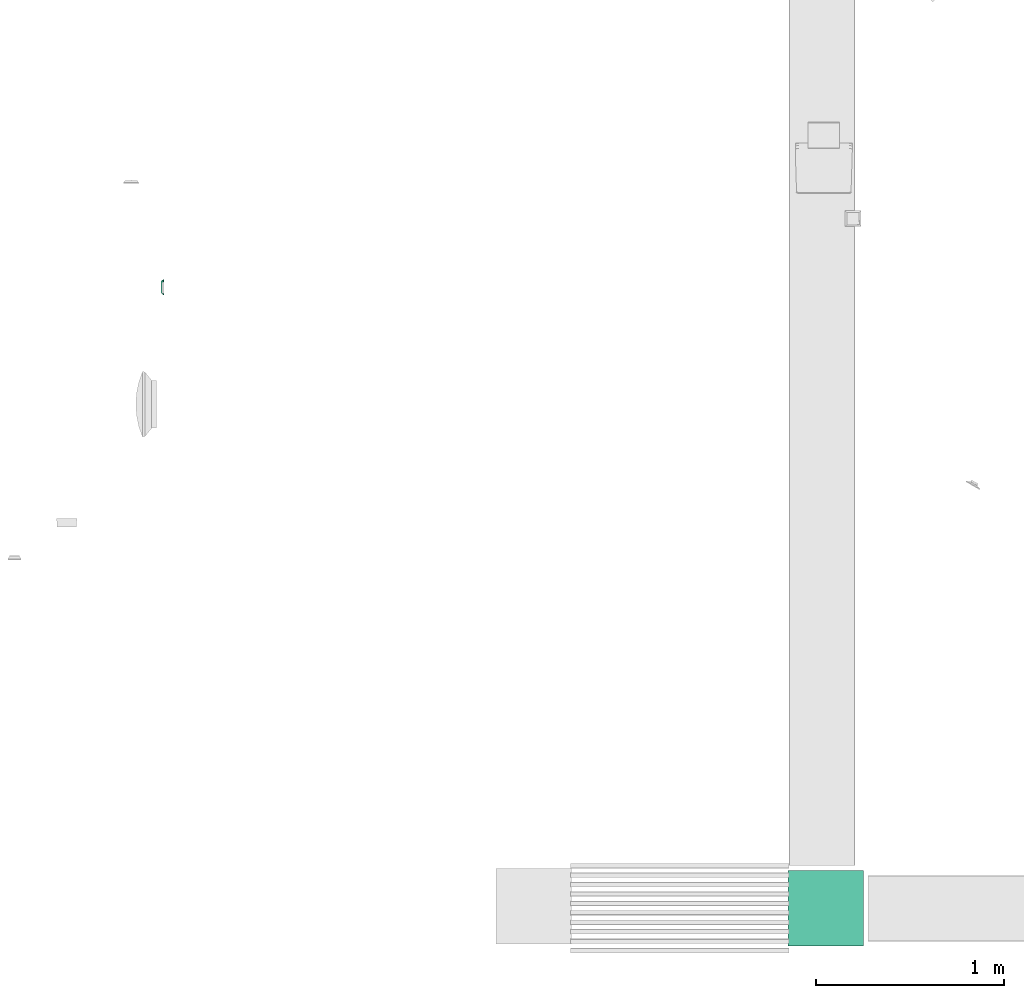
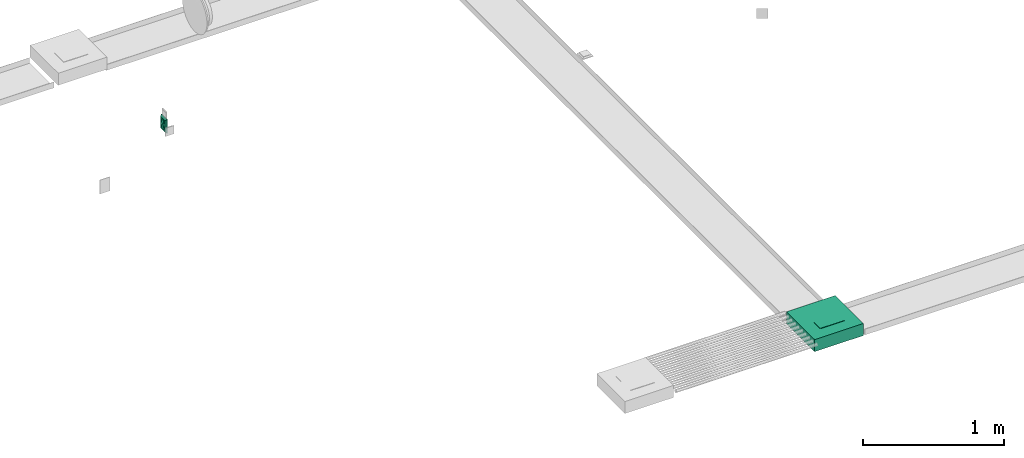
# One storey, part 3 of 24: 2 flow terminals.
"""IFC2X3 building model written with IfcOpenShell, lengths in millimetres."""

from ifc_helpers import new_model, entity, si_unit, converted_unit, derived_unit, direction, frame, origin_with_axes, place, context, subcontext, project, spatial, open_shell, surface_model, source, transform, mapped, type_object, element, save


model = new_model("IFC2X3")

# Units and contexts
model_context = context("Model", 3, precision=0.01, world=frame((0.0, 4.29681676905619e-09, 0.0)), true_north=direction((4.01073788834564e-13, 1.0)))
plan_context = context("Plan", 3, precision=0.01, world=frame((0.0, 4.29681676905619e-09, 0.0)), true_north=direction((4.01073788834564e-13, 1.0)))
body_context = subcontext(model_context, "Body", "Model", "MODEL_VIEW")
ifc_project = project(units=[converted_unit("PLANEANGLEUNIT", "DEGREE", entity("IfcPositiveLengthMeasure", 0.0174532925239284), si_unit("PLANEANGLEUNIT", "RADIAN"), dimensions=[0, 0, 0, 0, 0, 0, 0]), si_unit("AREAUNIT", "SQUARE_METRE"), si_unit("LENGTHUNIT", "METRE", prefix="MILLI"), si_unit("MASSUNIT", "GRAM", prefix="KILO"), si_unit("POWERUNIT", "WATT"), si_unit("PRESSUREUNIT", "PASCAL"), si_unit("FORCEUNIT", "NEWTON", prefix="KILO"), si_unit("ELECTRICVOLTAGEUNIT", "VOLT"), si_unit("ELECTRICCURRENTUNIT", "AMPERE"), si_unit("THERMODYNAMICTEMPERATUREUNIT", "DEGREE_CELSIUS"), si_unit("TIMEUNIT", "SECOND"), si_unit("VOLUMEUNIT", "CUBIC_METRE"), derived_unit("LINEARVELOCITYUNIT", [(si_unit("LENGTHUNIT", "METRE"), 1), (si_unit("TIMEUNIT", "SECOND"), -1)]), derived_unit("VOLUMETRICFLOWRATEUNIT", [(si_unit("VOLUMEUNIT", "CUBIC_METRE"), 1), (si_unit("TIMEUNIT", "SECOND"), -1)]), derived_unit("THERMALTRANSMITTANCEUNIT", [(si_unit("POWERUNIT", "WATT"), 1), (si_unit("THERMODYNAMICTEMPERATUREUNIT", "KELVIN"), -1), (si_unit("AREAUNIT", "SQUARE_METRE"), -1)]), derived_unit("SOUNDPRESSUREUNIT", [(si_unit("PRESSUREUNIT", "PASCAL"), 1)])], contexts=[model_context, plan_context])

# Site, building, storey
site_placement = place(None, frame((0.0, -4.29681676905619e-09, 0.0), z_axis=(0.0, 0.0, 1.0), x_axis=(1.0, 0.0, 0.0)))
site = spatial("IfcSite", under=ifc_project, at=site_placement, Name="ENGM", CompositionType="ELEMENT")
building_placement = place(site_placement, frame((0.0, 4.29681676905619e-09, 0.0), z_axis=(0.0, 0.0, 1.0), x_axis=(1.0, 0.0, 0.0)))
building = spatial("IfcBuilding", under=site, at=building_placement, Name="TH", CompositionType="ELEMENT")
storey_placement = place(building_placement, frame((0.0, 0.0, 210200.0), z_axis=(0.0, 0.0, 1.0), x_axis=(1.0, 0.0, 0.0)))
storey = spatial("IfcBuildingStorey", under=building, at=storey_placement, Name="Nivå F - 0,7 m", CompositionType="ELEMENT", Elevation=210200.0)

# Flow terminals
electric_appliance_type = type_object("IfcElectricApplianceType", Name="OTHER-EE-POWER-BALANCED-DUMMY", PredefinedType="NOTDEFINED")
shared_shape_1 = source(origin_with_axes(), body_context, "Body", "SurfaceModel", [
    surface_model("IfcShellBasedSurfaceModel", [(199.96, -199.96, -8.96812), (199.96, 200.0, -8.96812), (-200.0, 200.0, -8.96812), (-200.0, -199.96, -8.96812), (-200.0, -199.96, -108.96812), (-200.0, 200.0, -108.96812), (199.96, -199.96, -108.96812), (199.96, 200.0, -108.96812), (99.91278, -102.96181, -1.48406), (99.91278, 100.0, -1.48406), (-100.0, -102.96181, -1.48406), (-100.0, 100.0, -1.48406), (-100.0, -102.96181, -4.48406), (-100.0, 100.0, -4.48406), (99.91278, 100.0, -4.48406), (99.91278, -102.96181, -4.48406), (199.96, -199.96, -4.48406), (199.96, 200.0, -4.48406), (-200.0, 200.0, -4.48406), (-200.0, -199.96, -4.48406), (-200.0, -199.96, -104.48406), (-200.0, 200.0, -104.48406), (199.96, -199.96, -104.48406), (199.96, 200.0, -104.48406)], [open_shell([[[0, 1, 2]], [[2, 3, 0]], [[4, 5, 6]], [[7, 6, 5]], [[2, 1, 7]], [[7, 5, 2]], [[3, 2, 5]], [[5, 4, 3]], [[0, 3, 4]], [[4, 6, 0]], [[1, 0, 6]], [[6, 7, 1]], [[8, 9, 10]], [[11, 10, 9]], [[12, 13, 14]], [[14, 15, 12]], [[11, 9, 14]], [[14, 13, 11]], [[10, 11, 13]], [[13, 12, 10]], [[8, 10, 12]], [[12, 15, 8]], [[9, 8, 15]], [[15, 14, 9]], [[16, 17, 18]], [[18, 19, 16]], [[20, 21, 22]], [[23, 22, 21]], [[18, 17, 23]], [[23, 21, 18]], [[19, 18, 21]], [[21, 20, 19]], [[16, 19, 20]], [[20, 22, 16]], [[17, 16, 22]], [[22, 23, 17]]])]),
])
flow_terminal_1_placement = place(storey_placement, frame((899510.37959, 476620.08655, 1.5), z_axis=(0.0, 0.0, 1.0), x_axis=(1.0, 0.0, 0.0)))
element("IfcFlowTerminal", 1, at=flow_terminal_1_placement, inside=storey, type_object=electric_appliance_type, Name="OTHER-EE-POWER-BALANCED-DUMMY", context=body_context, shape_type="MappedRepresentation", body=[
    mapped(shared_shape_1, transform((0.0, 0.0, 0.0), scale=1.0)),
])
outlet_type = type_object("IfcOutletType", Name="Jordet-topolet-2-veis-m_boks", PredefinedType="POWEROUTLET")
shared_shape_2 = source(origin_with_axes(), body_context, "Body", "SurfaceModel", [
    surface_model("IfcShellBasedSurfaceModel", [(-0.5, 17.924, -6.7222), (-0.5, 13.06676, -7.5222), (-0.5, 13.06676, -6.7222), (-0.5, 18.42991, -6.09229), (-0.5, 17.73274, -6.544), (-0.5, 18.9533, -6.99882), (-0.5, 19.0222, -7.5222), (-0.5, 18.75128, -6.5111), (-0.5, 17.50795, -6.41055), (-0.5, 18.0111, -5.77092), (-0.5, 5.0, -6.3), (-0.5, 17.0, -5.5), (-0.5, 17.0, -6.3), (-0.5, 17.25992, -6.32796), (-0.5, 17.52338, -5.56891), (-0.5, 5.0, -5.5), (-0.5, 17.0, -44.5), (-0.5, 5.0, -44.5), (-0.5, 5.0, -43.7), (-0.5, 17.0, -43.7), (-0.5, 17.25471, -43.67288), (-0.5, 17.49801, -43.59276), (-0.5, 18.00498, -44.23072), (-0.5, 17.52021, -44.43151), (-0.5, 17.71899, -43.46321), (-0.5, 18.42125, -43.9113), (-0.5, 17.90774, -43.29004), (-0.5, 13.03378, -43.29004), (-0.5, 13.03378, -42.49005), (-0.5, 18.74067, -43.49502), (-0.5, 18.94147, -43.01026), (-0.5, 19.00995, -42.49005), (0.5, 17.0, -5.5), (0.5, 5.0, -5.5), (0.5, 5.0, -6.3), (0.5, 17.0, -6.3), (0.5, 17.25992, -6.32796), (0.5, 17.50795, -6.41055), (0.5, 18.0111, -5.77092), (0.5, 17.52338, -5.56891), (0.5, 17.73274, -6.544), (0.5, 18.42991, -6.09229), (0.5, 17.924, -6.7222), (0.5, 13.06676, -6.7222), (0.5, 13.06676, -7.5222), (0.5, 18.75128, -6.5111), (0.5, 18.9533, -6.99882), (0.5, 19.0222, -7.5222), (0.5, 17.90774, -43.29004), (0.5, 13.03378, -42.49005), (0.5, 13.03378, -43.29004), (0.5, 18.42125, -43.9113), (0.5, 17.71899, -43.46321), (0.5, 18.94147, -43.01026), (0.5, 19.00995, -42.49005), (0.5, 18.74067, -43.49502), (0.5, 17.49801, -43.59276), (0.5, 18.00498, -44.23072), (0.5, 5.0, -43.7), (0.5, 17.0, -44.5), (0.5, 17.0, -43.7), (0.5, 17.25471, -43.67288), (0.5, 17.52021, -44.43151), (0.5, 5.0, -44.5), (-0.5, 17.90774, 6.70995), (-0.5, 18.74067, 6.50498), (-0.5, 18.42125, 6.0887), (-0.5, 17.71899, 6.53679), (-0.5, 18.00498, 5.76928), (-0.5, 17.49801, 6.40724), (-0.5, 19.00995, 7.50995), (-0.5, 18.94147, 6.98974), (-0.5, 13.03378, 7.50995), (-0.5, 17.52021, 5.56849), (-0.5, 17.0, 5.5), (-0.5, 17.0, 6.3), (-0.5, 17.25471, 6.32711), (-0.5, 5.0, 5.5), (-0.5, 5.0, 6.3), (-0.5, 13.03378, 6.70995), (0.5, 5.0, 6.3), (0.5, 5.0, 5.5), (0.5, 17.0, 6.3), (0.5, 17.0, 5.5), (0.5, 17.25471, 6.32711), (0.5, 17.90774, 6.70995), (0.5, 13.03378, 7.50995), (0.5, 13.03378, 6.70995), (0.5, 17.52021, 5.56849), (0.5, 17.49801, 6.40724), (0.5, 18.00498, 5.76928), (0.5, 17.71899, 6.53679), (0.5, 18.42125, 6.0887), (0.5, 18.74067, 6.50498), (0.5, 18.94147, 6.98974), (0.5, 19.00995, 7.50995), (-0.5, 17.924, 43.2778), (-0.5, 13.06676, 42.4778), (-0.5, 13.06676, 43.2778), (-0.5, 18.42991, 43.90771), (-0.5, 17.73274, 43.456), (-0.5, 18.9533, 43.00118), (-0.5, 19.0222, 42.4778), (-0.5, 18.75128, 43.4889), (-0.5, 17.50795, 43.58945), (-0.5, 18.0111, 44.22908), (-0.5, 17.0, 44.5), (-0.5, 17.0, 43.7), (-0.5, 5.0, 44.5), (-0.5, 17.25992, 43.67204), (-0.5, 17.52338, 44.4311), (-0.5, 5.0, 43.7), (0.5, 5.0, 44.5), (0.5, 17.0, 43.7), (0.5, 17.0, 44.5), (0.5, 5.0, 43.7), (0.5, 17.25992, 43.67204), (0.5, 17.50795, 43.58945), (0.5, 18.0111, 44.22908), (0.5, 17.52338, 44.4311), (0.5, 17.73274, 43.456), (0.5, 18.42991, 43.90771), (0.5, 17.924, 43.2778), (0.5, 13.06676, 43.2778), (0.5, 13.06676, 42.4778), (0.5, 18.75128, 43.4889), (0.5, 18.9533, 43.00118), (0.5, 19.0222, 42.4778), (7.79776, 5.0, -26.27146), (7.45708, 5.0, -25.0), (7.54372, 5.0, -25.65816), (8.72854, 5.0, -27.20224), (8.20188, 5.0, -26.79812), (10.65816, 5.0, -27.45628), (9.34184, 5.0, -27.45628), (8.20188, 5.0, -23.20188), (7.54372, 5.0, -24.34184), (7.79776, 5.0, -23.72854), (9.34184, 5.0, -22.54373), (8.72854, 5.0, -22.79776), (10.0, 5.0, -27.54292), (11.27146, 5.0, -27.20224), (11.79812, 5.0, -26.79812), (12.45628, 5.0, -25.65816), (12.45628, 5.0, -24.34184), (12.20224, 5.0, -26.27146), (12.54292, 5.0, -25.0), (10.0, 5.0, -22.45708), (11.27146, 5.0, -22.79776), (10.65816, 5.0, -22.54373), (11.79812, 5.0, -23.20188), (12.20224, 5.0, -23.72854), (-12.20258, 5.0, -26.27166), (-12.45666, 5.0, -24.34174), (-12.45666, 5.0, -25.65826), (-11.27166, 5.0, -27.20258), (-11.7984, 5.0, -26.7984), (-10.65826, 5.0, -22.54334), (-7.45668, 5.0, -25.0), (-10.65826, 5.0, -27.45666), (-9.34174, 5.0, -27.45666), (-12.20258, 5.0, -23.72834), (-12.54332, 5.0, -25.0), (-11.27166, 5.0, -22.79742), (-11.7984, 5.0, -23.2016), (-10.0, 5.0, -27.54332), (-8.72834, 5.0, -27.20258), (-8.2016, 5.0, -26.7984), (-7.54334, 5.0, -25.65826), (-7.79742, 5.0, -26.27166), (-7.54334, 5.0, -24.34174), (-9.34174, 5.0, -22.54334), (-8.2016, 5.0, -23.2016), (-8.72834, 5.0, -22.79742), (-10.0, 5.0, -22.45668), (-7.79742, 5.0, -23.72834), (12.45628, 5.5, -25.65816), (12.45628, 5.5, -24.34184), (12.54292, 5.5, -25.0), (11.79812, 5.5, -26.79812), (12.20224, 5.5, -26.27146), (11.27146, 5.5, -27.20224), (10.65816, 5.5, -27.45628), (11.79812, 5.5, -23.20188), (12.20224, 5.5, -23.72854), (11.27146, 5.5, -22.79776), (10.0, 5.5, -22.45708), (10.65816, 5.5, -22.54373), (8.72854, 5.5, -27.20224), (9.34184, 5.5, -22.54373), (9.34184, 5.5, -27.45628), (8.20188, 5.5, -23.20188), (7.79776, 5.5, -26.27146), (7.45708, 5.5, -25.0), (8.20188, 5.5, -26.79812), (7.54372, 5.5, -25.65816), (8.72854, 5.5, -22.79776), (7.54372, 5.5, -24.34184), (7.79776, 5.5, -23.72854), (10.0, 5.5, -27.54292), (-8.2016, 5.5, -26.7984), (-7.45668, 5.5, -25.0), (-7.54334, 5.5, -25.65826), (-7.79742, 5.5, -26.27166), (-10.65826, 5.5, -27.45666), (-8.72834, 5.5, -27.20258), (-7.79742, 5.5, -23.72834), (-12.20258, 5.5, -26.27166), (-8.2016, 5.5, -23.2016), (-7.54334, 5.5, -24.34174), (-9.34174, 5.5, -22.54334), (-8.72834, 5.5, -22.79742), (-10.65826, 5.5, -22.54334), (-10.0, 5.5, -22.45668), (-10.0, 5.5, -27.54332), (-9.34174, 5.5, -27.45666), (-11.27166, 5.5, -27.20258), (-11.7984, 5.5, -26.7984), (-12.45666, 5.5, -24.34174), (-12.45666, 5.5, -25.65826), (-11.27166, 5.5, -22.79742), (-12.20258, 5.5, -23.72834), (-11.7984, 5.5, -23.2016), (-12.54332, 5.5, -25.0), (7.85373, 5.0, 23.76085), (7.5217, 5.0, 25.0), (7.60615, 5.0, 24.35857), (8.76085, 5.0, 22.85373), (8.24758, 5.0, 23.24758), (9.35857, 5.0, 22.60615), (10.0, 5.0, 22.5217), (8.24758, 5.0, 26.75242), (7.60615, 5.0, 25.64143), (7.85373, 5.0, 26.23915), (8.76085, 5.0, 27.14627), (10.0, 5.0, 27.4783), (9.35857, 5.0, 27.39385), (11.23915, 5.0, 22.85373), (12.39385, 5.0, 24.35857), (11.75242, 5.0, 23.24758), (11.75242, 5.0, 26.75242), (12.14627, 5.0, 23.76085), (12.4783, 5.0, 25.0), (12.14627, 5.0, 26.23915), (11.23915, 5.0, 27.14627), (10.64143, 5.0, 27.39385), (12.39385, 5.0, 25.64143), (10.64143, 5.0, 22.60615), (-12.12391, 5.0, 23.77376), (-12.45249, 5.0, 25.0), (-12.36892, 5.0, 24.36525), (-11.73417, 5.0, 23.26583), (-8.77376, 5.0, 27.12391), (-10.63475, 5.0, 27.36892), (-11.22624, 5.0, 22.87609), (-10.63475, 5.0, 22.63108), (-7.87609, 5.0, 23.77376), (-12.12391, 5.0, 26.22624), (-12.36892, 5.0, 25.63475), (-11.22624, 5.0, 27.12391), (-11.73417, 5.0, 26.73417), (-10.0, 5.0, 22.54752), (-9.36525, 5.0, 22.63108), (-8.77376, 5.0, 22.87609), (-8.26583, 5.0, 23.26583), (-7.63108, 5.0, 25.63475), (-7.63108, 5.0, 24.36525), (-7.54751, 5.0, 25.0), (-9.36525, 5.0, 27.36892), (-10.0, 5.0, 27.45248), (-8.26583, 5.0, 26.73417), (-7.87609, 5.0, 26.22624), (12.39385, 5.5, 24.35857), (12.14627, 5.5, 26.23915), (12.4783, 5.5, 25.0), (11.75242, 5.5, 23.24758), (12.14627, 5.5, 23.76085), (11.75242, 5.5, 26.75242), (11.23915, 5.5, 22.85373), (8.76085, 5.5, 22.85373), (12.39385, 5.5, 25.64143), (11.23915, 5.5, 27.14627), (10.0, 5.5, 27.4783), (10.64143, 5.5, 27.39385), (10.64143, 5.5, 22.60615), (10.0, 5.5, 22.5217), (9.35857, 5.5, 22.60615), (8.76085, 5.5, 27.14627), (8.24758, 5.5, 26.75242), (7.85373, 5.5, 23.76085), (8.24758, 5.5, 23.24758), (7.5217, 5.5, 25.0), (7.60615, 5.5, 24.35857), (9.35857, 5.5, 27.39385), (7.60615, 5.5, 25.64143), (7.85373, 5.5, 26.23915), (-7.63108, 5.5, 24.36525), (-7.63108, 5.5, 25.63475), (-7.54751, 5.5, 25.0), (-8.26583, 5.5, 23.26583), (-7.87609, 5.5, 23.77376), (-11.22624, 5.5, 22.87609), (-8.77376, 5.5, 22.87609), (-8.26583, 5.5, 26.73417), (-7.87609, 5.5, 26.22624), (-8.77376, 5.5, 27.12391), (-10.0, 5.5, 27.45248), (-9.36525, 5.5, 27.36892), (-10.63475, 5.5, 27.36892), (-10.0, 5.5, 22.54752), (-9.36525, 5.5, 22.63108), (-10.63475, 5.5, 22.63108), (-12.45249, 5.5, 25.0), (-11.73417, 5.5, 23.26583), (-12.12391, 5.5, 23.77376), (-12.36892, 5.5, 24.36525), (-11.22624, 5.5, 27.12391), (-12.12391, 5.5, 26.22624), (-11.73417, 5.5, 26.73417), (-12.36892, 5.5, 25.63475), (41.0, 5.0, -60.0), (19.31852, 5.0, -30.17638), (17.32051, 5.0, -35.0), (20.0, 5.0, -25.0), (14.14214, 5.0, -39.14214), (10.0, 5.0, -42.32051), (5.17638, 5.0, -44.31852), (0.0, 5.0, -45.0), (19.31852, 5.0, -19.82362), (17.32051, 5.0, 15.0), (17.32051, 5.0, -15.0), (10.0, 5.0, -7.67949), (14.14214, 5.0, -10.85786), (10.0, 5.0, 7.67949), (0.0, 5.0, -5.0), (5.17638, 5.0, -5.68148), (5.17638, 5.0, 5.68148), (14.14214, 5.0, 10.85786), (19.31852, 5.0, 19.82362), (-5.17638, 5.0, -44.31852), (-10.0, 5.0, -42.32051), (-41.0, 5.0, -60.0), (-14.14214, 5.0, -39.14214), (-17.32051, 5.0, -35.0), (-19.31852, 5.0, -30.17638), (-10.0, 5.0, -7.67949), (-5.17638, 5.0, -5.68148), (-5.17638, 5.0, 5.68148), (-14.14214, 5.0, -10.85786), (-10.0, 5.0, 7.67949), (-20.0, 5.0, -25.0), (-19.31852, 5.0, -19.82362), (-19.31852, 5.0, 19.82362), (-14.14214, 5.0, 10.85786), (-17.32051, 5.0, -15.0), (-17.32051, 5.0, 15.0), (0.0, 5.0, 5.0), (20.0, 5.0, 25.0), (41.0, 5.0, 60.0), (19.31852, 5.0, 30.17638), (17.32051, 5.0, 35.0), (14.14214, 5.0, 39.14214), (5.17638, 5.0, 44.31852), (10.0, 5.0, 42.32051), (0.0, 5.0, 45.0), (-20.0, 5.0, 25.0), (-41.0, 5.0, 60.0), (-5.17638, 5.0, 44.31852), (-10.0, 5.0, 42.32051), (-19.31852, 5.0, 30.17638), (-17.32051, 5.0, 35.0), (-14.14214, 5.0, 39.14214), (-31.0, 17.0, -50.0), (-19.31852, 17.0, -30.17638), (-17.32051, 17.0, -35.0), (-20.0, 17.0, -25.0), (-14.14214, 17.0, -39.14214), (-10.0, 17.0, -42.32051), (-5.17638, 17.0, -44.31852), (0.0, 17.0, -45.0), (-19.31852, 17.0, -19.82362), (-17.32051, 17.0, -15.0), (-17.32051, 17.0, 15.0), (-10.0, 17.0, -7.67949), (-14.14214, 17.0, -10.85786), (-10.0, 17.0, 7.67949), (0.0, 17.0, -5.0), (-5.17638, 17.0, -5.68148), (-5.17638, 17.0, 5.68148), (-14.14214, 17.0, 10.85786), (-19.31852, 17.0, 19.82362), (5.17638, 17.0, -44.31852), (10.0, 17.0, -42.32051), (31.0, 17.0, -50.0), (14.14214, 17.0, -39.14214), (17.32051, 17.0, -35.0), (19.31852, 17.0, -30.17638), (10.0, 17.0, -7.67949), (5.17638, 17.0, -5.68148), (5.17638, 17.0, 5.68148), (14.14214, 17.0, -10.85786), (10.0, 17.0, 7.67949), (20.0, 17.0, -25.0), (19.31852, 17.0, -19.82362), (17.32051, 17.0, -15.0), (17.32051, 17.0, 15.0), (14.14214, 17.0, 10.85786), (19.31852, 17.0, 19.82362), (0.0, 17.0, 5.0), (-20.0, 17.0, 25.0), (-31.0, 17.0, 50.0), (-19.31852, 17.0, 30.17638), (-17.32051, 17.0, 35.0), (-14.14214, 17.0, 39.14214), (-5.17638, 17.0, 44.31852), (-10.0, 17.0, 42.32051), (0.0, 17.0, 45.0), (20.0, 17.0, 25.0), (31.0, 17.0, 50.0), (5.17638, 17.0, 44.31852), (10.0, 17.0, 42.32051), (19.31852, 17.0, 30.17638), (17.32051, 17.0, 35.0), (14.14214, 17.0, 39.14214), (-41.0, 0.0, 60.0), (-41.0, 0.0, -60.0), (41.0, 0.0, 60.0), (41.0, 0.0, -60.0)], [open_shell([[[0, 1, 2]], [[3, 0, 4]], [[5, 6, 0]], [[0, 7, 5]], [[3, 7, 0]], [[6, 1, 0]], [[4, 8, 9]], [[10, 11, 12]], [[12, 11, 13]], [[8, 13, 14]], [[4, 9, 3]], [[9, 8, 14]], [[13, 11, 14]], [[11, 10, 15]], [[16, 17, 18]], [[18, 19, 16]], [[16, 19, 20]], [[21, 22, 23]], [[20, 21, 23]], [[22, 24, 25]], [[23, 16, 20]], [[26, 25, 24]], [[27, 28, 26]], [[29, 26, 30]], [[29, 25, 26]], [[31, 30, 26]], [[26, 28, 31]], [[24, 22, 21]], [[32, 33, 34]], [[34, 35, 32]], [[32, 35, 36]], [[37, 38, 39]], [[36, 37, 39]], [[38, 40, 41]], [[39, 32, 36]], [[42, 41, 40]], [[43, 44, 42]], [[45, 42, 46]], [[45, 41, 42]], [[47, 46, 42]], [[42, 44, 47]], [[40, 38, 37]], [[48, 49, 50]], [[51, 48, 52]], [[53, 54, 48]], [[48, 55, 53]], [[51, 55, 48]], [[54, 49, 48]], [[52, 56, 57]], [[58, 59, 60]], [[60, 59, 61]], [[56, 61, 62]], [[52, 57, 51]], [[57, 56, 62]], [[61, 59, 62]], [[59, 58, 63]], [[14, 32, 39]], [[9, 39, 38]], [[11, 32, 14]], [[9, 14, 39]], [[3, 9, 38]], [[38, 41, 3]], [[7, 41, 45]], [[5, 45, 46]], [[7, 45, 5]], [[6, 5, 46]], [[47, 6, 46]], [[41, 7, 3]], [[1, 6, 47]], [[47, 44, 1]], [[2, 1, 44]], [[44, 43, 2]], [[0, 2, 42]], [[43, 42, 2]], [[42, 4, 0]], [[42, 40, 4]], [[8, 4, 40]], [[37, 8, 40]], [[36, 12, 13]], [[37, 36, 13]], [[35, 12, 36]], [[8, 37, 13]], [[10, 12, 35]], [[35, 34, 10]], [[15, 10, 34]], [[34, 33, 15]], [[11, 15, 32]], [[33, 32, 15]], [[17, 16, 59]], [[59, 63, 17]], [[18, 17, 63]], [[63, 58, 18]], [[19, 18, 60]], [[58, 60, 18]], [[60, 20, 19]], [[60, 61, 20]], [[21, 20, 61]], [[56, 21, 61]], [[52, 26, 24]], [[56, 52, 24]], [[48, 26, 52]], [[21, 56, 24]], [[27, 26, 48]], [[48, 50, 27]], [[28, 27, 50]], [[50, 49, 28]], [[31, 28, 49]], [[49, 54, 31]], [[30, 54, 53]], [[29, 53, 55]], [[31, 54, 30]], [[29, 30, 53]], [[25, 29, 55]], [[55, 51, 25]], [[22, 51, 57]], [[23, 57, 62]], [[22, 57, 23]], [[16, 23, 62]], [[59, 16, 62]], [[51, 22, 25]], [[64, 65, 66]], [[67, 66, 68]], [[69, 67, 68]], [[70, 71, 64]], [[64, 71, 65]], [[66, 67, 64]], [[70, 64, 72]], [[68, 73, 69]], [[74, 75, 76]], [[74, 77, 75]], [[77, 78, 75]], [[69, 73, 76]], [[79, 72, 64]], [[76, 73, 74]], [[80, 81, 82]], [[82, 83, 84]], [[83, 82, 81]], [[85, 86, 87]], [[88, 89, 84]], [[84, 83, 88]], [[89, 90, 91]], [[90, 92, 91]], [[93, 85, 92]], [[91, 92, 85]], [[94, 95, 85]], [[93, 94, 85]], [[85, 95, 86]], [[90, 89, 88]], [[77, 74, 83]], [[83, 81, 77]], [[78, 77, 81]], [[81, 80, 78]], [[75, 78, 82]], [[80, 82, 78]], [[82, 76, 75]], [[82, 84, 76]], [[69, 76, 84]], [[89, 69, 84]], [[91, 64, 67]], [[89, 91, 67]], [[85, 64, 91]], [[69, 89, 67]], [[79, 64, 85]], [[85, 87, 79]], [[72, 79, 87]], [[87, 86, 72]], [[70, 72, 86]], [[86, 95, 70]], [[71, 95, 94]], [[65, 94, 93]], [[70, 95, 71]], [[65, 71, 94]], [[66, 65, 93]], [[93, 92, 66]], [[68, 92, 90]], [[73, 90, 88]], [[68, 90, 73]], [[74, 73, 88]], [[83, 74, 88]], [[92, 68, 66]], [[96, 97, 98]], [[99, 96, 100]], [[101, 102, 96]], [[96, 103, 101]], [[99, 103, 96]], [[102, 97, 96]], [[100, 104, 105]], [[106, 107, 108]], [[107, 106, 109]], [[104, 109, 110]], [[100, 105, 99]], [[105, 104, 110]], [[109, 106, 110]], [[111, 108, 107]], [[112, 113, 114]], [[115, 113, 112]], [[114, 113, 116]], [[117, 118, 119]], [[116, 117, 119]], [[118, 120, 121]], [[119, 114, 116]], [[122, 121, 120]], [[123, 124, 122]], [[125, 122, 126]], [[125, 121, 122]], [[127, 126, 122]], [[122, 124, 127]], [[120, 118, 117]], [[110, 114, 119]], [[105, 119, 118]], [[106, 114, 110]], [[105, 110, 119]], [[99, 105, 118]], [[118, 121, 99]], [[103, 121, 125]], [[101, 125, 126]], [[103, 125, 101]], [[102, 101, 126]], [[127, 102, 126]], [[121, 103, 99]], [[97, 102, 127]], [[127, 124, 97]], [[98, 97, 124]], [[124, 123, 98]], [[96, 98, 122]], [[123, 122, 98]], [[122, 100, 96]], [[122, 120, 100]], [[104, 100, 120]], [[117, 104, 120]], [[116, 107, 109]], [[117, 116, 109]], [[113, 107, 116]], [[104, 117, 109]], [[111, 107, 113]], [[113, 115, 111]], [[108, 111, 115]], [[115, 112, 108]], [[106, 108, 114]], [[112, 114, 108]], [[128, 129, 130]], [[131, 128, 132]], [[133, 131, 134]], [[129, 128, 131]], [[131, 133, 135]], [[136, 135, 137]], [[136, 129, 131]], [[135, 138, 139]], [[135, 136, 131]], [[133, 138, 135]], [[133, 134, 140]], [[133, 141, 142]], [[133, 142, 143]], [[133, 143, 144]], [[143, 142, 145]], [[144, 143, 146]], [[147, 148, 149]], [[138, 148, 147]], [[150, 144, 151]], [[144, 150, 148]], [[133, 144, 148]], [[148, 138, 133]], [[152, 153, 154]], [[155, 152, 156]], [[157, 152, 158]], [[159, 152, 155]], [[152, 159, 160]], [[153, 157, 161]], [[153, 162, 154]], [[161, 163, 164]], [[163, 161, 157]], [[152, 157, 153]], [[159, 165, 160]], [[160, 166, 167]], [[160, 167, 168]], [[158, 152, 168]], [[168, 167, 169]], [[170, 157, 158]], [[171, 172, 173]], [[174, 157, 171]], [[172, 170, 175]], [[170, 172, 171]], [[170, 171, 157]], [[160, 168, 152]], [[176, 177, 178]], [[179, 176, 180]], [[179, 181, 182]], [[179, 182, 176]], [[177, 176, 182]], [[177, 183, 184]], [[183, 177, 185]], [[185, 186, 187]], [[188, 185, 177]], [[185, 189, 186]], [[188, 177, 182]], [[190, 188, 182]], [[185, 188, 191]], [[188, 192, 193]], [[192, 188, 194]], [[195, 193, 192]], [[189, 191, 196]], [[185, 191, 189]], [[191, 197, 198]], [[191, 188, 197]], [[193, 197, 188]], [[199, 190, 182]], [[200, 201, 202]], [[200, 202, 203]], [[204, 200, 205]], [[201, 200, 206]], [[207, 206, 200]], [[206, 207, 208]], [[206, 209, 201]], [[208, 210, 211]], [[208, 212, 210]], [[212, 213, 210]], [[214, 205, 215]], [[200, 204, 207]], [[207, 204, 216]], [[208, 207, 212]], [[207, 216, 217]], [[218, 207, 219]], [[220, 221, 222]], [[221, 220, 212]], [[212, 218, 221]], [[212, 207, 218]], [[219, 223, 218]], [[204, 205, 214]], [[189, 138, 186]], [[196, 139, 189]], [[191, 198, 137]], [[191, 135, 196]], [[136, 198, 197]], [[189, 139, 138]], [[138, 147, 186]], [[136, 137, 198]], [[135, 191, 137]], [[135, 139, 196]], [[129, 136, 197]], [[197, 193, 129]], [[130, 193, 195]], [[192, 128, 195]], [[131, 194, 188]], [[194, 132, 192]], [[190, 134, 188]], [[192, 132, 128]], [[128, 130, 195]], [[140, 134, 190]], [[131, 188, 134]], [[131, 132, 194]], [[199, 140, 190]], [[193, 130, 129]], [[182, 133, 199]], [[181, 141, 182]], [[145, 179, 180]], [[179, 142, 181]], [[176, 143, 180]], [[182, 141, 133]], [[133, 140, 199]], [[143, 145, 180]], [[142, 179, 145]], [[142, 141, 181]], [[146, 143, 176]], [[176, 178, 146]], [[151, 177, 184]], [[144, 178, 177]], [[148, 183, 185]], [[150, 184, 183]], [[185, 187, 149]], [[184, 150, 151]], [[151, 144, 177]], [[147, 149, 187]], [[148, 185, 149]], [[148, 150, 183]], [[186, 147, 187]], [[178, 144, 146]], [[212, 174, 213]], [[220, 157, 212]], [[164, 222, 221]], [[220, 222, 163]], [[161, 221, 218]], [[220, 163, 157]], [[157, 174, 212]], [[153, 223, 162]], [[153, 161, 218]], [[164, 221, 161]], [[164, 163, 222]], [[223, 153, 218]], [[207, 154, 219]], [[217, 152, 207]], [[155, 216, 204]], [[217, 216, 156]], [[159, 204, 214]], [[219, 154, 162]], [[207, 152, 154]], [[159, 155, 204]], [[152, 217, 156]], [[155, 156, 216]], [[165, 159, 214]], [[219, 162, 223]], [[215, 165, 214]], [[205, 160, 215]], [[167, 200, 203]], [[205, 200, 166]], [[169, 203, 202]], [[205, 166, 160]], [[160, 165, 215]], [[168, 201, 158]], [[168, 169, 202]], [[167, 203, 169]], [[167, 166, 200]], [[201, 168, 202]], [[206, 170, 209]], [[208, 175, 206]], [[173, 211, 210]], [[208, 211, 172]], [[171, 210, 213]], [[206, 175, 170]], [[170, 158, 209]], [[211, 173, 172]], [[208, 172, 175]], [[171, 173, 210]], [[213, 174, 171]], [[209, 158, 201]], [[224, 225, 226]], [[227, 224, 228]], [[227, 229, 230]], [[231, 224, 227]], [[231, 227, 230]], [[232, 231, 233]], [[231, 232, 225]], [[224, 231, 225]], [[230, 234, 231]], [[234, 235, 236]], [[234, 230, 235]], [[235, 230, 237]], [[238, 237, 239]], [[237, 238, 240]], [[238, 239, 241]], [[242, 243, 238]], [[235, 244, 245]], [[244, 235, 240]], [[238, 243, 240]], [[240, 235, 237]], [[246, 243, 242]], [[237, 230, 247]], [[248, 249, 250]], [[251, 249, 248]], [[252, 253, 254]], [[251, 254, 253]], [[255, 256, 254]], [[249, 257, 258]], [[249, 251, 257]], [[257, 259, 260]], [[259, 257, 253]], [[251, 253, 257]], [[255, 261, 262]], [[255, 263, 256]], [[256, 263, 264]], [[265, 256, 266]], [[252, 254, 256]], [[267, 265, 266]], [[253, 268, 269]], [[252, 268, 253]], [[270, 265, 271]], [[265, 270, 252]], [[256, 265, 252]], [[255, 262, 263]], [[272, 273, 274]], [[275, 272, 276]], [[277, 272, 278]], [[278, 272, 275]], [[278, 279, 277]], [[274, 273, 280]], [[272, 277, 273]], [[281, 282, 283]], [[282, 281, 277]], [[277, 279, 282]], [[278, 284, 285]], [[285, 286, 279]], [[282, 279, 287]], [[288, 279, 289]], [[289, 279, 290]], [[291, 289, 292]], [[279, 288, 287]], [[293, 282, 287]], [[288, 294, 295]], [[294, 288, 291]], [[291, 288, 289]], [[278, 285, 279]], [[296, 297, 298]], [[299, 296, 300]], [[297, 296, 301]], [[302, 296, 299]], [[301, 296, 302]], [[297, 303, 304]], [[303, 297, 305]], [[305, 306, 307]], [[301, 305, 297]], [[305, 308, 306]], [[309, 302, 310]], [[311, 301, 302]], [[308, 305, 301]], [[312, 313, 314]], [[301, 313, 308]], [[312, 314, 315]], [[316, 317, 318]], [[317, 316, 308]], [[317, 312, 319]], [[317, 308, 313]], [[313, 312, 317]], [[311, 302, 309]], [[293, 236, 282]], [[287, 234, 293]], [[288, 295, 233]], [[288, 231, 287]], [[232, 295, 294]], [[293, 234, 236]], [[236, 235, 282]], [[232, 233, 295]], [[231, 288, 233]], [[231, 234, 287]], [[225, 232, 294]], [[294, 291, 225]], [[226, 291, 292]], [[289, 224, 292]], [[227, 290, 279]], [[290, 228, 289]], [[286, 229, 279]], [[289, 228, 224]], [[224, 226, 292]], [[230, 229, 286]], [[227, 279, 229]], [[227, 228, 290]], [[285, 230, 286]], [[291, 226, 225]], [[284, 247, 285]], [[278, 237, 284]], [[241, 275, 276]], [[278, 275, 239]], [[238, 276, 272]], [[284, 237, 247]], [[247, 230, 285]], [[238, 241, 276]], [[239, 275, 241]], [[239, 237, 278]], [[242, 238, 272]], [[272, 274, 242]], [[280, 246, 274]], [[273, 243, 280]], [[244, 277, 281]], [[273, 277, 240]], [[245, 281, 283]], [[273, 240, 243]], [[243, 246, 280]], [[235, 245, 283]], [[244, 281, 245]], [[244, 240, 277]], [[282, 235, 283]], [[274, 246, 242]], [[308, 269, 306]], [[316, 253, 308]], [[260, 318, 317]], [[316, 318, 259]], [[257, 317, 319]], [[316, 259, 253]], [[253, 269, 308]], [[258, 312, 249]], [[258, 257, 319]], [[260, 317, 257]], [[260, 259, 318]], [[312, 258, 319]], [[314, 250, 315]], [[313, 248, 314]], [[254, 301, 311]], [[313, 301, 251]], [[255, 311, 309]], [[315, 250, 249]], [[314, 248, 250]], [[251, 248, 313]], [[251, 301, 254]], [[255, 254, 311]], [[261, 255, 309]], [[315, 249, 312]], [[310, 261, 309]], [[302, 262, 310]], [[264, 299, 300]], [[302, 299, 263]], [[256, 300, 296]], [[302, 263, 262]], [[262, 261, 310]], [[266, 298, 267]], [[266, 256, 296]], [[264, 300, 256]], [[264, 263, 299]], [[298, 266, 296]], [[304, 265, 297]], [[303, 271, 304]], [[252, 305, 307]], [[303, 305, 270]], [[268, 307, 306]], [[304, 271, 265]], [[265, 267, 297]], [[305, 252, 270]], [[303, 270, 271]], [[268, 252, 307]], [[306, 269, 268]], [[297, 267, 298]], [[320, 321, 322]], [[321, 320, 323]], [[320, 322, 324]], [[325, 326, 320]], [[324, 325, 320]], [[320, 326, 327]], [[328, 323, 320]], [[329, 330, 328]], [[331, 332, 333]], [[334, 335, 336]], [[331, 336, 335]], [[330, 337, 332]], [[328, 320, 338]], [[339, 340, 341]], [[327, 339, 341]], [[341, 342, 343]], [[342, 341, 340]], [[341, 343, 344]], [[327, 341, 320]], [[345, 346, 347]], [[348, 345, 349]], [[344, 350, 341]], [[341, 351, 352]], [[350, 351, 341]], [[348, 353, 354]], [[355, 351, 354]], [[334, 347, 346]], [[329, 337, 330]], [[329, 328, 338]], [[336, 356, 334]], [[333, 336, 331]], [[337, 333, 332]], [[357, 358, 359]], [[358, 357, 338]], [[359, 358, 360]], [[361, 360, 358]], [[362, 363, 358]], [[361, 358, 363]], [[358, 364, 362]], [[320, 358, 338]], [[349, 353, 348]], [[347, 349, 345]], [[352, 365, 366]], [[352, 366, 341]], [[353, 355, 354]], [[367, 364, 366]], [[368, 367, 366]], [[369, 370, 366]], [[371, 366, 370]], [[366, 371, 368]], [[369, 366, 365]], [[364, 358, 366]], [[352, 351, 355]], [[356, 347, 334]], [[372, 373, 374]], [[373, 372, 375]], [[372, 374, 376]], [[377, 378, 372]], [[376, 377, 372]], [[372, 378, 379]], [[380, 375, 372]], [[381, 380, 382]], [[383, 384, 385]], [[386, 387, 388]], [[383, 388, 387]], [[381, 389, 384]], [[372, 390, 380]], [[391, 392, 393]], [[379, 391, 393]], [[393, 394, 395]], [[394, 393, 392]], [[393, 395, 396]], [[379, 393, 372]], [[397, 398, 399]], [[400, 397, 401]], [[396, 402, 393]], [[403, 404, 405]], [[402, 403, 393]], [[400, 406, 404]], [[393, 403, 407]], [[386, 399, 398]], [[382, 389, 381]], [[390, 382, 380]], [[388, 408, 386]], [[385, 388, 383]], [[389, 385, 384]], [[409, 410, 411]], [[410, 409, 390]], [[411, 410, 412]], [[413, 412, 410]], [[414, 415, 410]], [[413, 410, 415]], [[410, 416, 414]], [[390, 372, 410]], [[401, 406, 400]], [[399, 401, 397]], [[407, 417, 418]], [[405, 407, 403]], [[406, 405, 404]], [[419, 416, 418]], [[420, 419, 418]], [[421, 422, 418]], [[423, 418, 422]], [[418, 423, 420]], [[421, 418, 417]], [[416, 410, 418]], [[407, 418, 393]], [[408, 399, 386]], [[341, 372, 393]], [[393, 320, 341]], [[320, 393, 358]], [[418, 358, 393]], [[358, 418, 366]], [[410, 366, 418]], [[366, 410, 372]], [[372, 341, 366]], [[409, 352, 390]], [[390, 355, 382]], [[385, 389, 349]], [[353, 389, 382]], [[388, 385, 347]], [[352, 355, 390]], [[409, 365, 352]], [[385, 349, 347]], [[349, 389, 353]], [[382, 355, 353]], [[388, 347, 356]], [[356, 408, 388]], [[408, 336, 399]], [[399, 333, 401]], [[405, 406, 329]], [[337, 406, 401]], [[407, 405, 338]], [[333, 337, 401]], [[399, 336, 333]], [[407, 338, 357]], [[338, 405, 329]], [[406, 337, 329]], [[407, 357, 417]], [[356, 336, 408]], [[417, 359, 421]], [[421, 360, 422]], [[420, 423, 363]], [[361, 423, 422]], [[419, 420, 362]], [[359, 360, 421]], [[417, 357, 359]], [[420, 363, 362]], [[363, 423, 361]], [[422, 360, 361]], [[419, 362, 364]], [[364, 416, 419]], [[416, 367, 414]], [[414, 368, 415]], [[412, 413, 370]], [[371, 413, 415]], [[411, 412, 369]], [[368, 371, 415]], [[414, 367, 368]], [[411, 369, 365]], [[369, 412, 370]], [[413, 371, 370]], [[411, 365, 409]], [[364, 367, 416]], [[375, 344, 373]], [[373, 343, 374]], [[377, 376, 340]], [[342, 376, 374]], [[378, 377, 339]], [[344, 343, 373]], [[375, 350, 344]], [[377, 340, 339]], [[340, 376, 342]], [[374, 343, 342]], [[378, 339, 327]], [[327, 379, 378]], [[379, 326, 391]], [[391, 325, 392]], [[395, 394, 322]], [[324, 394, 392]], [[396, 395, 321]], [[325, 324, 392]], [[391, 326, 325]], [[396, 321, 323]], [[321, 395, 322]], [[394, 324, 322]], [[396, 323, 402]], [[327, 326, 379]], [[402, 328, 403]], [[403, 330, 404]], [[397, 400, 331]], [[332, 400, 404]], [[398, 397, 335]], [[328, 330, 403]], [[402, 323, 328]], [[397, 331, 335]], [[331, 400, 332]], [[404, 330, 332]], [[398, 335, 334]], [[334, 386, 398]], [[386, 346, 387]], [[387, 345, 383]], [[381, 384, 354]], [[348, 384, 383]], [[380, 381, 351]], [[345, 348, 383]], [[387, 346, 345]], [[380, 351, 350]], [[351, 381, 354]], [[384, 348, 354]], [[380, 350, 375]], [[334, 346, 386]], [[424, 425, 426]], [[427, 426, 425]], [[358, 320, 366]], [[341, 366, 320]], [[427, 425, 341]], [[341, 320, 427]], [[426, 427, 320]], [[320, 358, 426]], [[424, 426, 358]], [[358, 366, 424]], [[425, 424, 366]], [[366, 341, 425]]])]),
])
flow_terminal_2_placement = place(storey_placement, frame((896000.0, 479915.425, 910.0), z_axis=(0.0, 0.0, 1.0), x_axis=(0.0, 1.0, 0.0)))
element("IfcFlowTerminal", 2, at=flow_terminal_2_placement, inside=storey, type_object=outlet_type, Name="Jordet-topolet-2-veis-m_boks", context=body_context, shape_type="MappedRepresentation", body=[
    mapped(shared_shape_2, transform((0.0, 0.0, 0.0), scale=1.0)),
])

save(model, "model.ifc")
